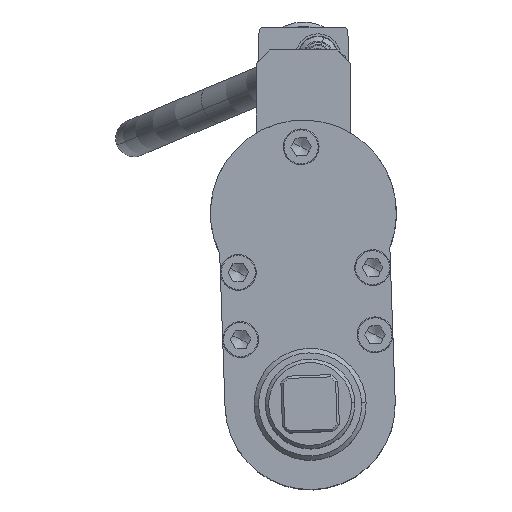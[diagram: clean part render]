
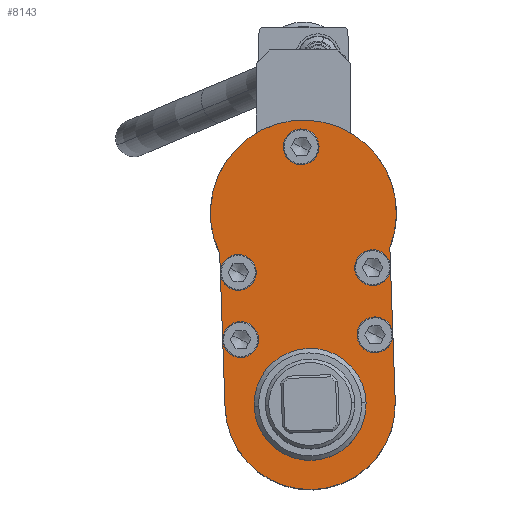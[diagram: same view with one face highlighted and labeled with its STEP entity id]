
A CAD part, top view. The second image highlights one B-rep face of the part: STEP entity #8143.
In plain terms, the highlighted planar face has unit normal (0, 0, 1).
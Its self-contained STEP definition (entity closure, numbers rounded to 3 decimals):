
#7999=AXIS2_PLACEMENT_3D('Plane Axis2P3D',#7996,#7997,#7998) ;
#8003=AXIS2_PLACEMENT_3D('Circle Axis2P3D',#8001,#8002,$) ;
#8019=AXIS2_PLACEMENT_3D('Circle Axis2P3D',#8017,#8018,$) ;
#8037=AXIS2_PLACEMENT_3D('Circle Axis2P3D',#8035,#8036,$) ;
#8046=AXIS2_PLACEMENT_3D('Circle Axis2P3D',#8044,#8045,$) ;
#8055=AXIS2_PLACEMENT_3D('Circle Axis2P3D',#8053,#8054,$) ;
#8064=AXIS2_PLACEMENT_3D('Circle Axis2P3D',#8062,#8063,$) ;
#8073=AXIS2_PLACEMENT_3D('Circle Axis2P3D',#8071,#8072,$) ;
#8082=AXIS2_PLACEMENT_3D('Circle Axis2P3D',#8080,#8081,$) ;
#8091=AXIS2_PLACEMENT_3D('Circle Axis2P3D',#8089,#8090,$) ;
#8100=AXIS2_PLACEMENT_3D('Circle Axis2P3D',#8098,#8099,$) ;
#8109=AXIS2_PLACEMENT_3D('Circle Axis2P3D',#8107,#8108,$) ;
#8118=AXIS2_PLACEMENT_3D('Circle Axis2P3D',#8116,#8117,$) ;
#8127=AXIS2_PLACEMENT_3D('Circle Axis2P3D',#8125,#8126,$) ;
#8136=AXIS2_PLACEMENT_3D('Circle Axis2P3D',#8134,#8135,$) ;
#7996=CARTESIAN_POINT('Axis2P3D Location',(2.984,-85.448,678.6)) ;
#8001=CARTESIAN_POINT('Axis2P3D Location',(2.984,-85.448,678.6)) ;
#8005=CARTESIAN_POINT('Vertex',(-34.993,-86.774,678.6)) ;
#8007=CARTESIAN_POINT('Vertex',(40.961,-84.122,678.6)) ;
#8010=CARTESIAN_POINT('Line Origine',(39.76,-49.733,678.6)) ;
#8014=CARTESIAN_POINT('Vertex',(38.559,-15.344,678.6)) ;
#8017=CARTESIAN_POINT('Axis2P3D Location',(0.,0.,678.6)) ;
#8021=CARTESIAN_POINT('Vertex',(-37.395,-17.997,678.6)) ;
#8024=CARTESIAN_POINT('Line Origine',(-36.194,-52.385,678.6)) ;
#8035=CARTESIAN_POINT('Axis2P3D Location',(-1.03,29.482,678.6)) ;
#8039=CARTESIAN_POINT('Vertex',(-5.22,31.585,678.6)) ;
#8041=CARTESIAN_POINT('Vertex',(3.161,27.379,678.6)) ;
#8044=CARTESIAN_POINT('Axis2P3D Location',(-1.03,29.482,678.6)) ;
#8053=CARTESIAN_POINT('Axis2P3D Location',(-28.045,-56.513,678.6)) ;
#8057=CARTESIAN_POINT('Vertex',(-32.235,-54.411,678.6)) ;
#8059=CARTESIAN_POINT('Vertex',(-23.855,-58.616,678.6)) ;
#8062=CARTESIAN_POINT('Axis2P3D Location',(-28.045,-56.513,678.6)) ;
#8071=CARTESIAN_POINT('Axis2P3D Location',(2.984,-85.448,678.6)) ;
#8075=CARTESIAN_POINT('Vertex',(27.969,-84.575,678.6)) ;
#8077=CARTESIAN_POINT('Vertex',(-22.001,-86.32,678.6)) ;
#8080=CARTESIAN_POINT('Axis2P3D Location',(2.984,-85.448,678.6)) ;
#8089=CARTESIAN_POINT('Axis2P3D Location',(31.919,-54.419,678.6)) ;
#8093=CARTESIAN_POINT('Vertex',(36.109,-56.522,678.6)) ;
#8095=CARTESIAN_POINT('Vertex',(27.729,-52.317,678.6)) ;
#8098=CARTESIAN_POINT('Axis2P3D Location',(31.919,-54.419,678.6)) ;
#8107=CARTESIAN_POINT('Axis2P3D Location',(-29.092,-26.531,678.6)) ;
#8111=CARTESIAN_POINT('Vertex',(-24.902,-28.634,678.6)) ;
#8113=CARTESIAN_POINT('Vertex',(-33.282,-24.429,678.6)) ;
#8116=CARTESIAN_POINT('Axis2P3D Location',(-29.092,-26.531,678.6)) ;
#8125=CARTESIAN_POINT('Axis2P3D Location',(30.872,-24.437,678.6)) ;
#8129=CARTESIAN_POINT('Vertex',(35.062,-26.54,678.6)) ;
#8131=CARTESIAN_POINT('Vertex',(26.682,-22.335,678.6)) ;
#8134=CARTESIAN_POINT('Axis2P3D Location',(30.872,-24.437,678.6)) ;
#7997=DIRECTION('Axis2P3D Direction',(0.,-0.,1.)) ;
#7998=DIRECTION('Axis2P3D XDirection',(0.999,0.035,0.)) ;
#8002=DIRECTION('Axis2P3D Direction',(0.,-0.,1.)) ;
#8011=DIRECTION('Vector Direction',(-0.035,0.999,0.)) ;
#8018=DIRECTION('Axis2P3D Direction',(0.,-0.,1.)) ;
#8025=DIRECTION('Vector Direction',(0.035,-0.999,0.)) ;
#8036=DIRECTION('Axis2P3D Direction',(0.,-0.,1.)) ;
#8045=DIRECTION('Axis2P3D Direction',(0.,-0.,1.)) ;
#8054=DIRECTION('Axis2P3D Direction',(0.,-0.,1.)) ;
#8063=DIRECTION('Axis2P3D Direction',(0.,-0.,1.)) ;
#8072=DIRECTION('Axis2P3D Direction',(0.,-0.,1.)) ;
#8081=DIRECTION('Axis2P3D Direction',(0.,-0.,1.)) ;
#8090=DIRECTION('Axis2P3D Direction',(0.,-0.,1.)) ;
#8099=DIRECTION('Axis2P3D Direction',(0.,-0.,1.)) ;
#8108=DIRECTION('Axis2P3D Direction',(0.,-0.,1.)) ;
#8117=DIRECTION('Axis2P3D Direction',(0.,-0.,1.)) ;
#8126=DIRECTION('Axis2P3D Direction',(0.,-0.,1.)) ;
#8135=DIRECTION('Axis2P3D Direction',(0.,-0.,1.)) ;
#8012=VECTOR('Line Direction',#8011,1.) ;
#8026=VECTOR('Line Direction',#8025,1.) ;
#8030=ORIENTED_EDGE('',*,*,#8009,.T.) ;
#8031=ORIENTED_EDGE('',*,*,#8016,.T.) ;
#8032=ORIENTED_EDGE('',*,*,#8023,.T.) ;
#8033=ORIENTED_EDGE('',*,*,#8028,.T.) ;
#8050=ORIENTED_EDGE('',*,*,#8043,.F.) ;
#8051=ORIENTED_EDGE('',*,*,#8048,.F.) ;
#8068=ORIENTED_EDGE('',*,*,#8061,.F.) ;
#8069=ORIENTED_EDGE('',*,*,#8066,.F.) ;
#8086=ORIENTED_EDGE('',*,*,#8079,.F.) ;
#8087=ORIENTED_EDGE('',*,*,#8084,.F.) ;
#8104=ORIENTED_EDGE('',*,*,#8097,.F.) ;
#8105=ORIENTED_EDGE('',*,*,#8102,.F.) ;
#8122=ORIENTED_EDGE('',*,*,#8115,.F.) ;
#8123=ORIENTED_EDGE('',*,*,#8120,.F.) ;
#8140=ORIENTED_EDGE('',*,*,#8133,.F.) ;
#8141=ORIENTED_EDGE('',*,*,#8138,.F.) ;
#8052=FACE_BOUND('',#8049,.T.) ;
#8070=FACE_BOUND('',#8067,.T.) ;
#8088=FACE_BOUND('',#8085,.T.) ;
#8106=FACE_BOUND('',#8103,.T.) ;
#8124=FACE_BOUND('',#8121,.T.) ;
#8142=FACE_BOUND('',#8139,.T.) ;
#8143=ADVANCED_FACE('AO3325.1\\AO3325_Gehauese.1\\Hauptk\X2\00F6\X0\rper',(#8034,#8052,#8070,#8088,#8106,#8124,#8142),#8000,.T.) ;
#8004=CIRCLE('generated circle',#8003,38.) ;
#8020=CIRCLE('generated circle',#8019,41.5) ;
#8038=CIRCLE('generated circle',#8037,4.688) ;
#8047=CIRCLE('generated circle',#8046,4.688) ;
#8056=CIRCLE('generated circle',#8055,4.688) ;
#8065=CIRCLE('generated circle',#8064,4.688) ;
#8074=CIRCLE('generated circle',#8073,25.) ;
#8083=CIRCLE('generated circle',#8082,25.) ;
#8092=CIRCLE('generated circle',#8091,4.688) ;
#8101=CIRCLE('generated circle',#8100,4.688) ;
#8110=CIRCLE('generated circle',#8109,4.688) ;
#8119=CIRCLE('generated circle',#8118,4.688) ;
#8128=CIRCLE('generated circle',#8127,4.688) ;
#8137=CIRCLE('generated circle',#8136,4.688) ;
#8009=EDGE_CURVE('',#8006,#8008,#8004,.T.) ;
#8016=EDGE_CURVE('',#8008,#8015,#8013,.T.) ;
#8023=EDGE_CURVE('',#8015,#8022,#8020,.T.) ;
#8028=EDGE_CURVE('',#8022,#8006,#8027,.T.) ;
#8043=EDGE_CURVE('',#8040,#8042,#8038,.T.) ;
#8048=EDGE_CURVE('',#8042,#8040,#8047,.T.) ;
#8061=EDGE_CURVE('',#8058,#8060,#8056,.T.) ;
#8066=EDGE_CURVE('',#8060,#8058,#8065,.T.) ;
#8079=EDGE_CURVE('',#8076,#8078,#8074,.T.) ;
#8084=EDGE_CURVE('',#8078,#8076,#8083,.T.) ;
#8097=EDGE_CURVE('',#8094,#8096,#8092,.T.) ;
#8102=EDGE_CURVE('',#8096,#8094,#8101,.T.) ;
#8115=EDGE_CURVE('',#8112,#8114,#8110,.T.) ;
#8120=EDGE_CURVE('',#8114,#8112,#8119,.T.) ;
#8133=EDGE_CURVE('',#8130,#8132,#8128,.T.) ;
#8138=EDGE_CURVE('',#8132,#8130,#8137,.T.) ;
#8029=EDGE_LOOP('',(#8030,#8031,#8032,#8033)) ;
#8049=EDGE_LOOP('',(#8050,#8051)) ;
#8067=EDGE_LOOP('',(#8068,#8069)) ;
#8085=EDGE_LOOP('',(#8086,#8087)) ;
#8103=EDGE_LOOP('',(#8104,#8105)) ;
#8121=EDGE_LOOP('',(#8122,#8123)) ;
#8139=EDGE_LOOP('',(#8140,#8141)) ;
#8034=FACE_OUTER_BOUND('',#8029,.T.) ;
#8013=LINE('Line',#8010,#8012) ;
#8027=LINE('Line',#8024,#8026) ;
#8000=PLANE('Plane',#7999) ;
#8006=VERTEX_POINT('',#8005) ;
#8008=VERTEX_POINT('',#8007) ;
#8015=VERTEX_POINT('',#8014) ;
#8022=VERTEX_POINT('',#8021) ;
#8040=VERTEX_POINT('',#8039) ;
#8042=VERTEX_POINT('',#8041) ;
#8058=VERTEX_POINT('',#8057) ;
#8060=VERTEX_POINT('',#8059) ;
#8076=VERTEX_POINT('',#8075) ;
#8078=VERTEX_POINT('',#8077) ;
#8094=VERTEX_POINT('',#8093) ;
#8096=VERTEX_POINT('',#8095) ;
#8112=VERTEX_POINT('',#8111) ;
#8114=VERTEX_POINT('',#8113) ;
#8130=VERTEX_POINT('',#8129) ;
#8132=VERTEX_POINT('',#8131) ;
